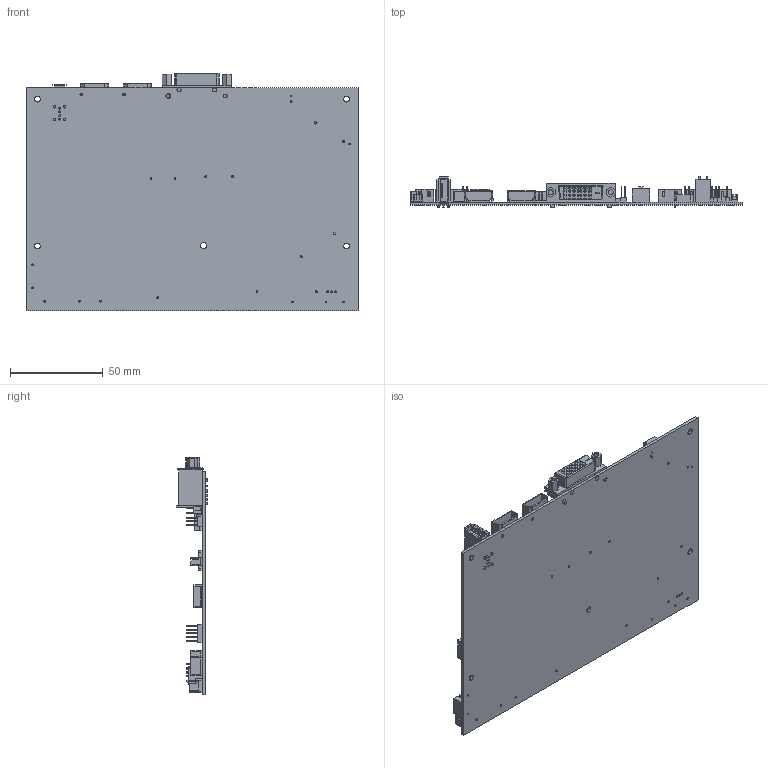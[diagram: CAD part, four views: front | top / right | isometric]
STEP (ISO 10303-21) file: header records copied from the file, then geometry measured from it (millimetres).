
FILE_DESCRIPTION (( 'STEP AP203' ), '1' );
FILE_NAME ('sp-4096-dim-dwg-180121.STEP', '2021-12-09T22:13:27', ( '' ), ( '' ), 'SwSTEP 2.0', 'SolidWorks 2020', '' );
FILE_SCHEMA (( 'CONFIG_CONTROL_DESIGN' ));
Length unit declared in the file: millimetre
Products named in the file (1): sp-4096-dim-dwg-180121
Bounding box: 179.07 x 17.23 x 128.36 mm (x, y, z)
Surface area: 59603.9 mm2 (no closed solid volume)
Topology: 0 solids, 99 shells, 1444 faces, 4430 edges, 3099 vertices
Faces by surface type: plane 1313, cylinder 127, sphere 4
Entity records: 48391 total; most frequent: CARTESIAN_POINT 8994, DIRECTION 7617, ORIENTED_EDGE 7481, EDGE_CURVE 4426, VECTOR 4109, LINE 4109, VERTEX_POINT 3099, AXIS2_PLACEMENT_3D 1754
